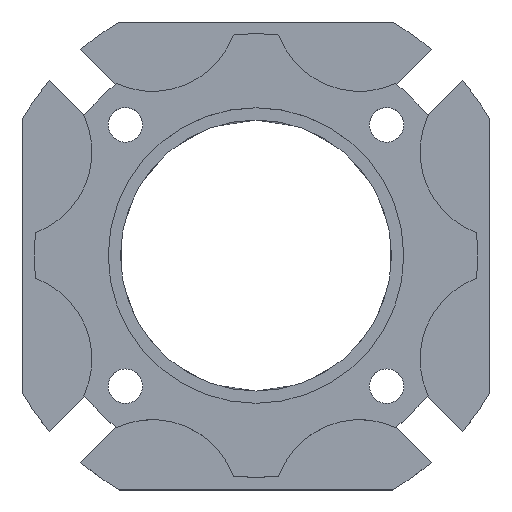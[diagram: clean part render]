
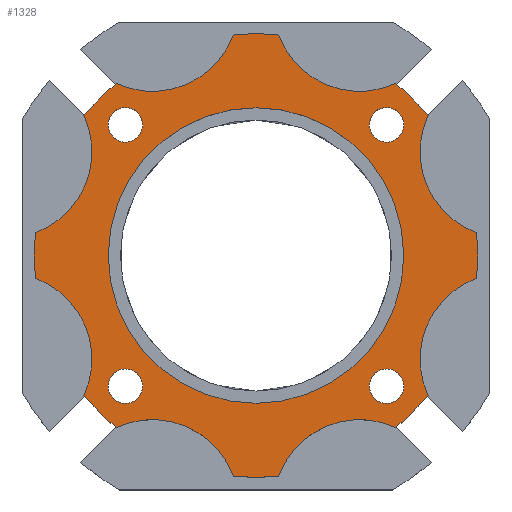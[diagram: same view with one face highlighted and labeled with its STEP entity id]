
A CAD part, top view. The second image highlights one B-rep face of the part: STEP entity #1328.
In plain terms, the highlighted planar face has unit normal (0, 0, 1).
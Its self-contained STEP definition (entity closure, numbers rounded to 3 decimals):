
#1=CARTESIAN_POINT('',(-26.517,26.517,0.));
#2=DIRECTION('',(0.,0.,-1.));
#3=DIRECTION('',(-1.,0.,0.));
#4=AXIS2_PLACEMENT_3D('',#1,#2,#3);
#6=CARTESIAN_POINT('',(-26.517,26.517,0.));
#7=DIRECTION('',(0.,0.,-1.));
#8=DIRECTION('',(1.,0.,0.));
#9=AXIS2_PLACEMENT_3D('',#6,#7,#8);
#11=CARTESIAN_POINT('',(26.517,26.517,0.));
#12=DIRECTION('',(0.,0.,-1.));
#13=DIRECTION('',(0.,1.,0.));
#14=AXIS2_PLACEMENT_3D('',#11,#12,#13);
#16=CARTESIAN_POINT('',(26.517,26.517,0.));
#17=DIRECTION('',(0.,0.,-1.));
#18=DIRECTION('',(0.,-1.,0.));
#19=AXIS2_PLACEMENT_3D('',#16,#17,#18);
#21=CARTESIAN_POINT('',(26.517,-26.517,0.));
#22=DIRECTION('',(0.,0.,-1.));
#23=DIRECTION('',(1.,0.,0.));
#24=AXIS2_PLACEMENT_3D('',#21,#22,#23);
#26=CARTESIAN_POINT('',(26.517,-26.517,0.));
#27=DIRECTION('',(0.,0.,-1.));
#28=DIRECTION('',(-1.,0.,0.));
#29=AXIS2_PLACEMENT_3D('',#26,#27,#28);
#31=CARTESIAN_POINT('',(-26.517,-26.517,0.));
#32=DIRECTION('',(0.,0.,-1.));
#33=DIRECTION('',(0.,-1.,0.));
#34=AXIS2_PLACEMENT_3D('',#31,#32,#33);
#36=CARTESIAN_POINT('',(-26.517,-26.517,0.));
#37=DIRECTION('',(0.,0.,-1.));
#38=DIRECTION('',(0.,1.,0.));
#39=AXIS2_PLACEMENT_3D('',#36,#37,#38);
#41=CARTESIAN_POINT('',(-21.048,50.813,0.));
#42=DIRECTION('',(0.,0.,1.));
#43=DIRECTION('',(-0.419,-0.908,0.));
#44=AXIS2_PLACEMENT_3D('',#41,#42,#43);
#46=CARTESIAN_POINT('',(21.048,50.813,0.));
#47=DIRECTION('',(0.,0.,1.));
#48=DIRECTION('',(-0.938,-0.346,0.));
#49=AXIS2_PLACEMENT_3D('',#46,#47,#48);
#51=CARTESIAN_POINT('',(50.813,21.048,0.));
#52=DIRECTION('',(0.,0.,1.));
#53=DIRECTION('',(-0.908,0.419,0.));
#54=AXIS2_PLACEMENT_3D('',#51,#52,#53);
#56=CARTESIAN_POINT('',(50.813,-21.048,0.));
#57=DIRECTION('',(0.,0.,1.));
#58=DIRECTION('',(-0.346,0.938,0.));
#59=AXIS2_PLACEMENT_3D('',#56,#57,#58);
#61=CARTESIAN_POINT('',(21.048,-50.813,0.));
#62=DIRECTION('',(0.,0.,1.));
#63=DIRECTION('',(0.419,0.908,0.));
#64=AXIS2_PLACEMENT_3D('',#61,#62,#63);
#66=CARTESIAN_POINT('',(-21.048,-50.813,0.));
#67=DIRECTION('',(0.,0.,1.));
#68=DIRECTION('',(0.938,0.346,0.));
#69=AXIS2_PLACEMENT_3D('',#66,#67,#68);
#71=CARTESIAN_POINT('',(-50.813,-21.048,0.));
#72=DIRECTION('',(0.,0.,1.));
#73=DIRECTION('',(0.908,-0.419,0.));
#74=AXIS2_PLACEMENT_3D('',#71,#72,#73);
#76=CARTESIAN_POINT('',(-50.813,21.048,0.));
#77=DIRECTION('',(0.,0.,1.));
#78=DIRECTION('',(0.346,-0.938,0.));
#79=AXIS2_PLACEMENT_3D('',#76,#77,#78);
#81=CARTESIAN_POINT('',(0.,0.,0.));
#82=DIRECTION('',(0.,0.,-1.));
#83=DIRECTION('',(0.,1.,0.));
#84=AXIS2_PLACEMENT_3D('',#81,#82,#83);
#94=CARTESIAN_POINT('',(0.,0.,0.));
#95=DIRECTION('',(0.,0.,1.));
#96=DIRECTION('',(0.,1.,0.));
#97=AXIS2_PLACEMENT_3D('',#94,#95,#96);
#715=CARTESIAN_POINT('',(0.,0.,0.));
#716=DIRECTION('',(0.,0.,1.));
#717=DIRECTION('',(0.776,0.631,0.));
#718=AXIS2_PLACEMENT_3D('',#715,#716,#717);
#733=CARTESIAN_POINT('',(0.,0.,0.));
#734=DIRECTION('',(0.,0.,1.));
#735=DIRECTION('',(0.995,-0.103,0.));
#736=AXIS2_PLACEMENT_3D('',#733,#734,#735);
#751=CARTESIAN_POINT('',(0.,0.,0.));
#752=DIRECTION('',(0.,0.,1.));
#753=DIRECTION('',(0.631,-0.776,0.));
#754=AXIS2_PLACEMENT_3D('',#751,#752,#753);
#769=CARTESIAN_POINT('',(0.,0.,0.));
#770=DIRECTION('',(0.,0.,1.));
#771=DIRECTION('',(-0.103,-0.995,0.));
#772=AXIS2_PLACEMENT_3D('',#769,#770,#771);
#787=CARTESIAN_POINT('',(0.,0.,0.));
#788=DIRECTION('',(0.,0.,1.));
#789=DIRECTION('',(-0.776,-0.631,0.));
#790=AXIS2_PLACEMENT_3D('',#787,#788,#789);
#805=CARTESIAN_POINT('',(0.,0.,0.));
#806=DIRECTION('',(0.,0.,1.));
#807=DIRECTION('',(-0.995,0.103,0.));
#808=AXIS2_PLACEMENT_3D('',#805,#806,#807);
#823=CARTESIAN_POINT('',(0.,0.,0.));
#824=DIRECTION('',(0.,0.,1.));
#825=DIRECTION('',(-0.631,0.776,0.));
#826=AXIS2_PLACEMENT_3D('',#823,#824,#825);
#850=CARTESIAN_POINT('',(0.,0.,0.));
#851=DIRECTION('',(0.,0.,1.));
#852=DIRECTION('',(0.103,0.995,0.));
#853=AXIS2_PLACEMENT_3D('',#850,#851,#852);
#1091=CARTESIAN_POINT('',(-30.017,26.517,0.));
#1092=CARTESIAN_POINT('',(-23.017,26.517,0.));
#1093=VERTEX_POINT('',#1091);
#1094=VERTEX_POINT('',#1092);
#1099=CARTESIAN_POINT('',(26.517,30.017,0.));
#1100=CARTESIAN_POINT('',(26.517,23.017,0.));
#1101=VERTEX_POINT('',#1099);
#1102=VERTEX_POINT('',#1100);
#1107=CARTESIAN_POINT('',(30.017,-26.517,0.));
#1108=CARTESIAN_POINT('',(23.017,-26.517,0.));
#1109=VERTEX_POINT('',#1107);
#1110=VERTEX_POINT('',#1108);
#1115=CARTESIAN_POINT('',(-26.517,-30.017,0.));
#1116=CARTESIAN_POINT('',(-26.517,-23.017,0.));
#1117=VERTEX_POINT('',#1115);
#1118=VERTEX_POINT('',#1116);
#1119=CARTESIAN_POINT('',(0.,30.,0.));
#1121=VERTEX_POINT('',#1119);
#1129=CARTESIAN_POINT('',(0.,-30.,0.));
#1131=VERTEX_POINT('',#1129);
#1139=CARTESIAN_POINT('',(4.627,44.761,0.));
#1141=VERTEX_POINT('',#1139);
#1143=CARTESIAN_POINT('',(28.379,34.923,0.));
#1145=VERTEX_POINT('',#1143);
#1147=CARTESIAN_POINT('',(34.923,28.379,0.));
#1149=VERTEX_POINT('',#1147);
#1151=CARTESIAN_POINT('',(44.761,4.627,0.));
#1153=VERTEX_POINT('',#1151);
#1155=CARTESIAN_POINT('',(44.761,-4.627,0.));
#1157=VERTEX_POINT('',#1155);
#1159=CARTESIAN_POINT('',(34.923,-28.379,0.));
#1161=VERTEX_POINT('',#1159);
#1163=CARTESIAN_POINT('',(28.379,-34.923,0.));
#1165=VERTEX_POINT('',#1163);
#1167=CARTESIAN_POINT('',(4.627,-44.761,0.));
#1169=VERTEX_POINT('',#1167);
#1171=CARTESIAN_POINT('',(-4.627,-44.761,0.));
#1173=VERTEX_POINT('',#1171);
#1175=CARTESIAN_POINT('',(-28.379,-34.923,0.));
#1177=VERTEX_POINT('',#1175);
#1179=CARTESIAN_POINT('',(-34.923,-28.379,0.));
#1181=VERTEX_POINT('',#1179);
#1183=CARTESIAN_POINT('',(-44.761,-4.627,0.));
#1185=VERTEX_POINT('',#1183);
#1187=CARTESIAN_POINT('',(-44.761,4.627,0.));
#1189=VERTEX_POINT('',#1187);
#1191=CARTESIAN_POINT('',(-34.923,28.379,0.));
#1193=VERTEX_POINT('',#1191);
#1195=CARTESIAN_POINT('',(-28.379,34.923,0.));
#1197=VERTEX_POINT('',#1195);
#1199=CARTESIAN_POINT('',(-4.627,44.761,0.));
#1201=VERTEX_POINT('',#1199);
#1259=CARTESIAN_POINT('',(0.,0.,0.));
#1260=DIRECTION('',(0.,0.,-1.));
#1261=DIRECTION('',(0.,-1.,0.));
#1262=AXIS2_PLACEMENT_3D('',#1259,#1260,#1261);
#1263=PLANE('',#1262);
#1265=ORIENTED_EDGE('',*,*,#1264,.T.);
#1267=ORIENTED_EDGE('',*,*,#1266,.F.);
#1269=ORIENTED_EDGE('',*,*,#1268,.T.);
#1271=ORIENTED_EDGE('',*,*,#1270,.F.);
#1273=ORIENTED_EDGE('',*,*,#1272,.T.);
#1275=ORIENTED_EDGE('',*,*,#1274,.F.);
#1277=ORIENTED_EDGE('',*,*,#1276,.T.);
#1279=ORIENTED_EDGE('',*,*,#1278,.F.);
#1281=ORIENTED_EDGE('',*,*,#1280,.T.);
#1283=ORIENTED_EDGE('',*,*,#1282,.F.);
#1285=ORIENTED_EDGE('',*,*,#1284,.T.);
#1287=ORIENTED_EDGE('',*,*,#1286,.F.);
#1289=ORIENTED_EDGE('',*,*,#1288,.T.);
#1291=ORIENTED_EDGE('',*,*,#1290,.F.);
#1293=ORIENTED_EDGE('',*,*,#1292,.T.);
#1295=ORIENTED_EDGE('',*,*,#1294,.F.);
#1296=EDGE_LOOP('',(#1265,#1267,#1269,#1271,#1273,#1275,#1277,#1279,#1281,#1283,
#1285,#1287,#1289,#1291,#1293,#1295));
#1297=FACE_OUTER_BOUND('',#1296,.F.);
#1299=ORIENTED_EDGE('',*,*,#1298,.F.);
#1301=ORIENTED_EDGE('',*,*,#1300,.T.);
#1302=EDGE_LOOP('',(#1299,#1301));
#1303=FACE_BOUND('',#1302,.F.);
#1305=ORIENTED_EDGE('',*,*,#1304,.F.);
#1307=ORIENTED_EDGE('',*,*,#1306,.F.);
#1308=EDGE_LOOP('',(#1305,#1307));
#1309=FACE_BOUND('',#1308,.F.);
#1311=ORIENTED_EDGE('',*,*,#1310,.F.);
#1313=ORIENTED_EDGE('',*,*,#1312,.F.);
#1314=EDGE_LOOP('',(#1311,#1313));
#1315=FACE_BOUND('',#1314,.F.);
#1317=ORIENTED_EDGE('',*,*,#1316,.F.);
#1319=ORIENTED_EDGE('',*,*,#1318,.F.);
#1320=EDGE_LOOP('',(#1317,#1319));
#1321=FACE_BOUND('',#1320,.F.);
#1323=ORIENTED_EDGE('',*,*,#1322,.F.);
#1325=ORIENTED_EDGE('',*,*,#1324,.F.);
#1326=EDGE_LOOP('',(#1323,#1325));
#1327=FACE_BOUND('',#1326,.F.);
#1328=ADVANCED_FACE('',(#1297,#1303,#1309,#1315,#1321,#1327),#1263,.F.);
#5=CIRCLE('',#4,3.5);
#10=CIRCLE('',#9,3.5);
#15=CIRCLE('',#14,3.5);
#20=CIRCLE('',#19,3.5);
#25=CIRCLE('',#24,3.5);
#30=CIRCLE('',#29,3.5);
#35=CIRCLE('',#34,3.5);
#40=CIRCLE('',#39,3.5);
#45=CIRCLE('',#44,17.5);
#50=CIRCLE('',#49,17.5);
#55=CIRCLE('',#54,17.5);
#60=CIRCLE('',#59,17.5);
#65=CIRCLE('',#64,17.5);
#70=CIRCLE('',#69,17.5);
#75=CIRCLE('',#74,17.5);
#80=CIRCLE('',#79,17.5);
#85=CIRCLE('',#84,30.);
#98=CIRCLE('',#97,30.);
#719=CIRCLE('',#718,45.);
#737=CIRCLE('',#736,45.);
#755=CIRCLE('',#754,45.);
#773=CIRCLE('',#772,45.);
#791=CIRCLE('',#790,45.);
#809=CIRCLE('',#808,45.);
#827=CIRCLE('',#826,45.);
#854=CIRCLE('',#853,45.);
#1264=EDGE_CURVE('',#1197,#1201,#45,.T.);
#1266=EDGE_CURVE('',#1141,#1201,#854,.T.);
#1268=EDGE_CURVE('',#1141,#1145,#50,.T.);
#1270=EDGE_CURVE('',#1149,#1145,#719,.T.);
#1272=EDGE_CURVE('',#1149,#1153,#55,.T.);
#1274=EDGE_CURVE('',#1157,#1153,#737,.T.);
#1276=EDGE_CURVE('',#1157,#1161,#60,.T.);
#1278=EDGE_CURVE('',#1165,#1161,#755,.T.);
#1280=EDGE_CURVE('',#1165,#1169,#65,.T.);
#1282=EDGE_CURVE('',#1173,#1169,#773,.T.);
#1284=EDGE_CURVE('',#1173,#1177,#70,.T.);
#1286=EDGE_CURVE('',#1181,#1177,#791,.T.);
#1288=EDGE_CURVE('',#1181,#1185,#75,.T.);
#1290=EDGE_CURVE('',#1189,#1185,#809,.T.);
#1292=EDGE_CURVE('',#1189,#1193,#80,.T.);
#1294=EDGE_CURVE('',#1197,#1193,#827,.T.);
#1298=EDGE_CURVE('',#1121,#1131,#85,.T.);
#1300=EDGE_CURVE('',#1121,#1131,#98,.T.);
#1304=EDGE_CURVE('',#1093,#1094,#5,.T.);
#1306=EDGE_CURVE('',#1094,#1093,#10,.T.);
#1310=EDGE_CURVE('',#1101,#1102,#15,.T.);
#1312=EDGE_CURVE('',#1102,#1101,#20,.T.);
#1316=EDGE_CURVE('',#1109,#1110,#25,.T.);
#1318=EDGE_CURVE('',#1110,#1109,#30,.T.);
#1322=EDGE_CURVE('',#1117,#1118,#35,.T.);
#1324=EDGE_CURVE('',#1118,#1117,#40,.T.);
